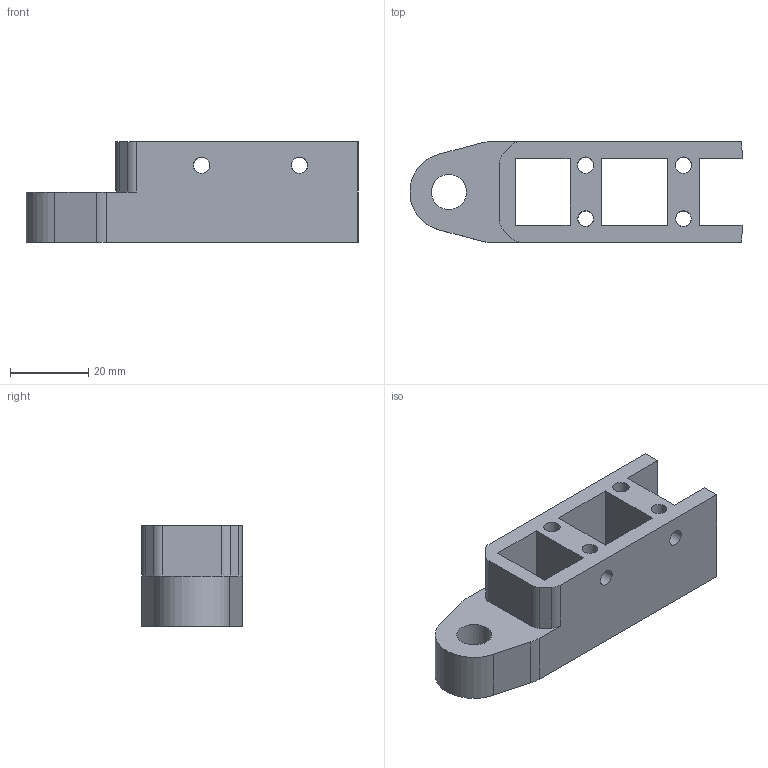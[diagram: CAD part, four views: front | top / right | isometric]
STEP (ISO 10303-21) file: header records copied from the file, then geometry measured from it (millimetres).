
FILE_DESCRIPTION (( 'STEP AP214' ), '1' );
FILE_NAME ('N15606-SUP.step', '2024-12-03T16:25:50', ( '' ), ( '' ), 'SwSTEP 2.0', 'SolidWorks 2023', '' );
FILE_SCHEMA (( 'AUTOMOTIVE_DESIGN' ));
Length unit declared in the file: millimetre
Products named in the file (1): N15606-SUP
Bounding box: 84.96 x 25.7 x 25.7 mm (x, y, z)
Volume: 25387.9 mm3; surface area: 13215.7 mm2
Topology: 1 solids, 1 shells, 44 faces, 139 edges, 91 vertices
Faces by surface type: plane 23, cylinder 20, cone 1
Full cylindrical faces by diameter (mm): 4 x4, 4.2 x8, 9 x1
Entity records: 1679 total; most frequent: CARTESIAN_POINT 527, ORIENTED_EDGE 222, DIRECTION 218, EDGE_CURVE 111, EDGE_LOOP 80, VERTEX_POINT 79, AXIS2_PLACEMENT_3D 74, LINE 70
